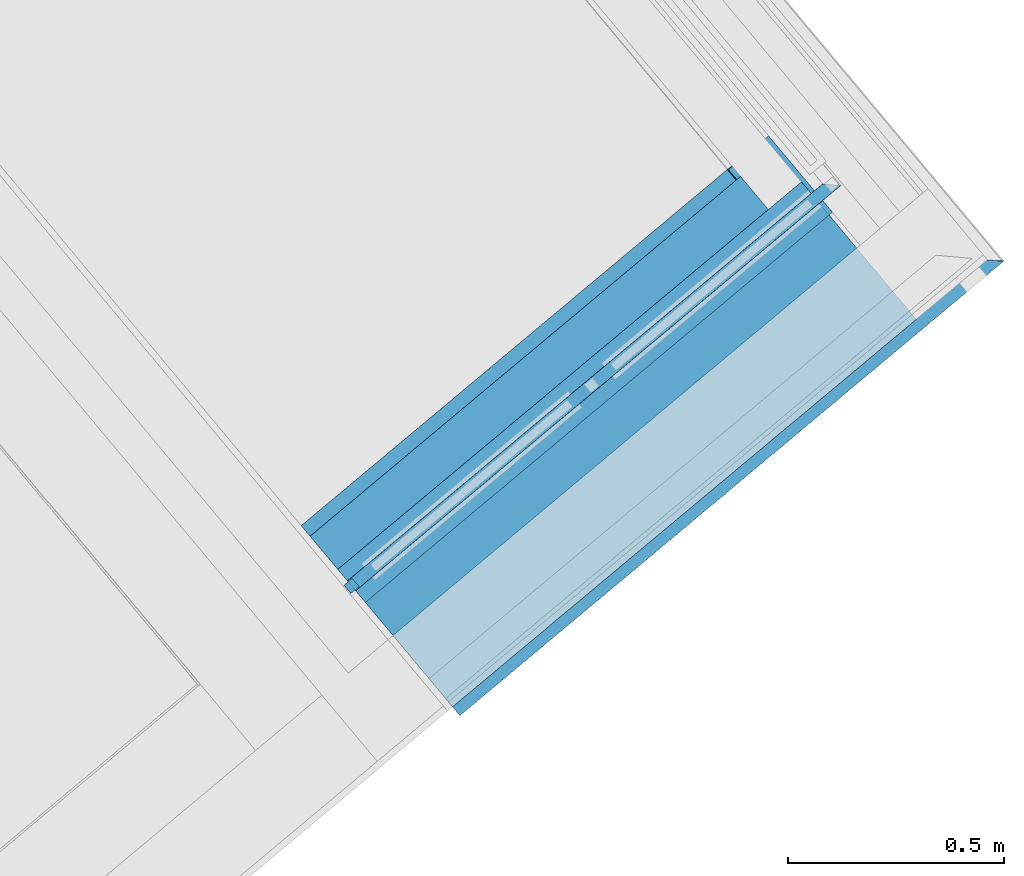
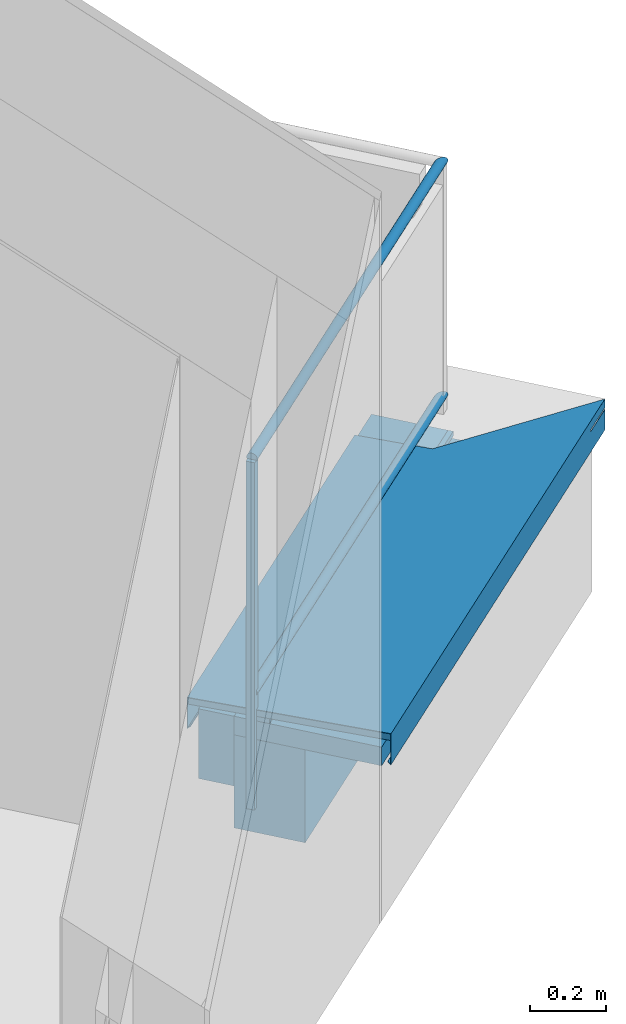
# One storey, part 30 of 53: 9 building element parts, 2 elements without a shape of their own.
"""IFC4 building model written with IfcOpenShell, lengths in metres."""

from ifc_helpers import new_model, entity, si_unit, converted_unit, derived_unit, direction, frame, origin_with_axes, place, context, subcontext, project, spatial, polygons, material, type_object, element, aggregate, save


model = new_model("IFC4")

# Units and contexts
model_context = context("Model", 3, precision=1e-05, world=origin_with_axes(), true_north=direction((0.0, 1.0)))
body_context = subcontext(model_context, "Body", "Model", "MODEL_VIEW")
ifc_project = project(units=[si_unit("LENGTHUNIT", "METRE"), si_unit("AREAUNIT", "SQUARE_METRE"), si_unit("VOLUMEUNIT", "CUBIC_METRE"), converted_unit("PLANEANGLEUNIT", "DEGREE", entity("IfcPlaneAngleMeasure", 0.0174532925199), si_unit("PLANEANGLEUNIT", "RADIAN"), dimensions=[0, 0, 0, 0, 0, 0, 0]), converted_unit("TIMEUNIT", "Year", entity("IfcTimeMeasure", 31556926.0), si_unit("TIMEUNIT", "SECOND"), dimensions=[0, 0, 1, 0, 0, 0, 0]), si_unit("MASSUNIT", "GRAM", prefix="KILO"), si_unit("THERMODYNAMICTEMPERATUREUNIT", "DEGREE_CELSIUS"), si_unit("LUMINOUSINTENSITYUNIT", "LUMEN"), si_unit("ENERGYUNIT", "JOULE", prefix="MEGA"), derived_unit("THERMALCONDUCTANCEUNIT", [(si_unit("POWERUNIT", "WATT"), 1), (si_unit("LENGTHUNIT", "METRE"), -1), (si_unit("THERMODYNAMICTEMPERATUREUNIT", "KELVIN"), -1)]), derived_unit("SPECIFICHEATCAPACITYUNIT", [(si_unit("ENERGYUNIT", "JOULE"), 1), (si_unit("MASSUNIT", "GRAM", prefix="KILO"), -1), (si_unit("THERMODYNAMICTEMPERATUREUNIT", "KELVIN"), -1)]), derived_unit("MASSDENSITYUNIT", [(si_unit("MASSUNIT", "GRAM", prefix="KILO"), 1), (si_unit("VOLUMEUNIT", "CUBIC_METRE"), -1)])], contexts=[model_context])

# Site, building, storey
site_placement = place(None, frame((-0.00153261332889, -0.00661245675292, 0.0), z_axis=(0.0, 0.0, 1.0), x_axis=(1.0, 0.0, 0.0)))
site = spatial("IfcSite", under=ifc_project, at=site_placement, Name="Gelände", CompositionType="ELEMENT")
building_placement = place(site_placement, origin_with_axes())
building = spatial("IfcBuilding", under=site, at=building_placement, Name="Gebäude", CompositionType="ELEMENT")
storey_placement = place(building_placement, frame((0.0, 0.0, 2.74), z_axis=(0.0, 0.0, 1.0), x_axis=(1.0, 0.0, 0.0)))
storey = spatial("IfcBuildingStorey", under=building, at=storey_placement, Name="OG1", CompositionType="ELEMENT", Elevation=2.74)

# Wall, building element parts
wall_type = type_object("IfcWallType", Name="Balkon Dämmung runter 574 x 610", PredefinedType="NOTDEFINED")
wall_placement = place(storey_placement, frame((14.3343917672, 21.3414540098, -0.2), z_axis=(0.0, 0.0, 1.0), x_axis=(-0.76736545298, -0.64120999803, 0.0)))
wall = element("IfcWall", 1, at=wall_placement, inside=storey, type_object=wall_type, Name="Wand-004", PredefinedType="NOTDEFINED")
ifc_material_1 = material(Name="Brettschichtholz")
building_element_part_1_placement = place(wall_placement, origin_with_axes())
building_element_part_1 = element("IfcBuildingElementPart", 2, at=building_element_part_1_placement, material=ifc_material_1, Name="Brettschichtholz", PredefinedType="NOTDEFINED", context=body_context, shape_type="Tessellation", body=[
    polygons([(1.40011965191, 0.214999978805, 0.500000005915), (1.40011965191, 0.214999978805, 0.560000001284), (1.40011965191, 0.190124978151, 0.560000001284), (1.40011965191, 0.130124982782, 0.560000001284), (1.40011965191, -0.100000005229, 0.560000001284), (1.40011965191, -0.160000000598, 0.560000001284), (1.40011965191, -0.200000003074, 0.560000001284), (1.40011965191, -0.199999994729, 0.500000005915), (1.07020205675e-06, 0.214999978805, 0.500000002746), (1.07020207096e-06, 0.214999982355, 0.506731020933), (1.07020207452e-06, 0.214999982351, 0.509050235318), (1.07020203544e-06, 0.214999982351, 0.509099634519), (1.07020207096e-06, 0.214999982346, 0.51136132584), (1.07020206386e-06, 0.214999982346, 0.511410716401), (1.07020207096e-06, 0.21499998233, 0.519224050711), (1.0702020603e-06, 0.21499998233, 0.519273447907), (1.07020207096e-06, 0.214999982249, 0.560000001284), (9.46374964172e-07, 0.190124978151, 0.560000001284), (6.47696584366e-07, 0.130124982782, 0.560000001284), (-4.97859470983e-07, -0.100000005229, 0.560000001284), (-7.96537847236e-07, -0.160000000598, 0.560000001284), (-9.95656794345e-07, -0.200000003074, 0.560000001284), (-9.95656751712e-07, -0.199999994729, 0.500000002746), (-9.95656773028e-07, -0.19999999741, 0.519273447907), (-9.95656765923e-07, -0.199999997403, 0.519224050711), (-9.95656765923e-07, -0.199999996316, 0.511410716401), (-9.95656758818e-07, -0.199999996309, 0.51136132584), (-9.95656787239e-07, -0.199999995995, 0.509099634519), (-9.95656758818e-07, -0.199999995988, 0.509050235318), (-9.95656758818e-07, -0.199999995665, 0.506731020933)], [[[1, 2, 3, 4, 5, 6, 7, 8]], [[2, 1, 9, 10, 11, 12, 13, 14, 15, 16, 17]], [[3, 2, 17, 18]], [[4, 3, 18, 19]], [[5, 4, 19, 20]], [[6, 5, 20, 21]], [[7, 6, 21, 22]], [[23, 8, 7, 22, 24, 25, 26, 27, 28, 29, 30]], [[1, 8, 23, 9]], [[9, 23, 30, 10]], [[11, 10, 30, 29]], [[12, 11, 29, 28]], [[13, 12, 28, 27]], [[14, 13, 27, 26]], [[15, 14, 26, 25]], [[25, 24, 16, 15]], [[21, 20, 19, 18, 17, 16, 24, 22]]], closed=True),
])
ifc_material_2 = material(Name="Stahlbeton")
building_element_part_2_placement = place(wall_placement, origin_with_axes())
building_element_part_2 = element("IfcBuildingElementPart", 3, at=building_element_part_2_placement, material=ifc_material_2, Name="Stahlbeton", PredefinedType="NOTDEFINED", context=body_context, shape_type="Tessellation", body=[
    polygons([(-1.05296038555e-09, 2.73518452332e-09, 0.498915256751), (-1.05295683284e-09, 2.73518452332e-09, 0.500000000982), (1.40011965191, 2.73518807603e-09, 0.499999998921), (1.40011965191, 2.73518807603e-09, 0.200000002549), (-1.05296038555e-09, 2.73518452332e-09, 0.2), (-1.05296038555e-09, 2.73518452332e-09, 0.334999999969), (-1.05296038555e-09, 2.73518452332e-09, 0.488695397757), (-1.05296038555e-09, 2.73518452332e-09, 0.491006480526), (-1.05296038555e-09, 2.73518452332e-09, 0.496604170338), (-1.05296038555e-09, 2.73518452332e-09, 0.498822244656), (-9.96647639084e-07, -0.199999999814, 0.500000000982), (-9.96647639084e-07, -0.199999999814, 0.498915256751), (1.40011965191, -0.199999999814, 0.500000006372), (1.40011965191, -0.199999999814, 0.334999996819), (1.40011965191, -0.199999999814, 0.200000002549), (-9.96647639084e-07, -0.199999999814, 0.2), (-9.96647639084e-07, -0.199999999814, 0.334999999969), (-9.96647639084e-07, -0.199999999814, 0.488695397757), (-9.96647639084e-07, -0.199999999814, 0.491006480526), (-9.96647639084e-07, -0.199999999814, 0.496604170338), (-9.96647639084e-07, -0.199999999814, 0.498822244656)], [[[1, 2, 3, 4, 5, 6, 7, 8, 9, 10]], [[11, 2, 1, 12]], [[2, 11, 13, 3]], [[4, 3, 13, 14, 15]], [[16, 5, 4, 15]], [[17, 6, 5, 16]], [[18, 7, 6, 17]], [[19, 8, 7, 18]], [[20, 9, 8, 19]], [[21, 10, 9, 20]], [[12, 1, 10, 21]], [[11, 12, 21, 20, 19, 18, 17, 14, 13]], [[17, 16, 15, 14]]], closed=True),
])
ifc_material_3 = material(Name="Vollholz")
building_element_part_3_placement = place(wall_placement, origin_with_axes())
building_element_part_3 = element("IfcBuildingElementPart", 4, at=building_element_part_3_placement, material=ifc_material_3, Name="Vollholz", PredefinedType="NOTDEFINED", context=body_context, shape_type="Tessellation", body=[
    polygons([(-0.0100567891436, -0.1, 0.575576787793), (-0.0100545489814, -0.1, 0.575979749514), (1.40011965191, -0.1, 0.575979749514), (1.40011965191, -0.1, 0.560000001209), (-0.0101434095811, -0.1, 0.560000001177), (-0.0100992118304, -0.1, 0.567947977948), (-0.0100662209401, -0.1, 0.573880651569), (-0.010056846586, -0.11153931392, 0.575576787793), (-0.0100665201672, -0.160110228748, 0.573880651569), (1.40011965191, -0.160110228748, 0.573880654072), (1.40011965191, -0.16, 0.560000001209), (-0.0101437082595, -0.16, 0.560000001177), (-0.010099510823, -0.160063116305, 0.567947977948)], [[[1, 2, 3, 4, 5, 6, 7]], [[8, 2, 1]], [[2, 8, 9, 10, 3]], [[10, 11, 4, 3]], [[12, 5, 4, 11]], [[13, 6, 5, 12]], [[9, 7, 6, 13]], [[8, 1, 7, 9]], [[9, 13, 12, 11, 10]]], closed=True),
])
ifc_material_4 = material(Name="EPS 1")
building_element_part_4_placement = place(wall_placement, origin_with_axes())
building_element_part_4 = element("IfcBuildingElementPart", 5, at=building_element_part_4_placement, material=ifc_material_4, Name="EPS 1", PredefinedType="NOTDEFINED", context=body_context, shape_type="Tessellation", body=[
    polygons([(0.0999985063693, -0.300000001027, 0.498915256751), (0.0999985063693, -0.300000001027, 0.499999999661), (0.0999990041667, -0.199999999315, 0.499999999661), (0.0999990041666, -0.199999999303, 0.498915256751), (1.40011965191, -0.3, 0.335), (1.40011965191, -0.3, 0.560000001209), (0.0999985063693, -0.300000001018, 0.560000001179), (0.0999985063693, -0.300000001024, 0.519273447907), (0.0999985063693, -0.300000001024, 0.519224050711), (0.0999985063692, -0.300000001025, 0.511410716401), (0.0999985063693, -0.300000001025, 0.51136132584), (0.0999985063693, -0.300000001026, 0.509099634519), (0.0999985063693, -0.300000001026, 0.509050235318), (0.0999985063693, -0.300000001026, 0.506731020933), (0.0999985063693, -0.300000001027, 0.498822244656), (0.0999985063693, -0.300000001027, 0.496604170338), (0.0999985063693, -0.300000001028, 0.491006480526), (0.0999985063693, -0.300000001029, 0.488695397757), (0.0999985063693, -0.3, 0.335), (0.0999990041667, -0.199999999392, 0.506731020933), (1.40011965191, -0.2, 0.560000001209), (1.40011965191, -0.199999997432, 0.335), (0.0999990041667, -0.199999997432, 0.335), (0.0999990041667, -0.199999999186, 0.488695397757), (0.0999990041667, -0.199999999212, 0.491006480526), (0.0999990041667, -0.199999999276, 0.496604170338), (0.0999990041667, -0.199999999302, 0.498822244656), (0.0999990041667, -0.199999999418, 0.509050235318), (0.0999990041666, -0.199999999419, 0.509099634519), (0.0999990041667, -0.199999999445, 0.51136132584), (0.0999990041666, -0.199999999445, 0.511410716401), (0.0999990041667, -0.199999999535, 0.519224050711), (0.0999990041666, -0.199999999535, 0.519273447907), (0.0999990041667, -0.2, 0.560000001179)], [[[1, 2, 3, 4]], [[5, 6, 7, 8, 9, 10, 11, 12, 13, 14, 2, 1, 15, 16, 17, 18, 19]], [[2, 14, 20, 3]], [[21, 22, 23, 24, 25, 26, 27, 4, 3, 20, 28, 29, 30, 31, 32, 33, 34]], [[15, 1, 4, 27]], [[5, 22, 21, 6]], [[6, 21, 34, 7]], [[34, 33, 8, 7]], [[33, 32, 9, 8]], [[32, 31, 10, 9]], [[31, 30, 11, 10]], [[30, 29, 12, 11]], [[29, 28, 13, 12]], [[14, 13, 28, 20]], [[16, 15, 27, 26]], [[17, 16, 26, 25]], [[18, 17, 25, 24]], [[19, 18, 24, 23]], [[22, 5, 19, 23]]], closed=True),
])
ifc_material_5 = material(Name="Holzwerkstoff")
building_element_part_5_placement = place(wall_placement, origin_with_axes())
building_element_part_5 = element("IfcBuildingElementPart", 6, at=building_element_part_5_placement, material=ifc_material_5, Name="Holzwerkstoff", PredefinedType="NOTDEFINED", context=body_context, shape_type="Tessellation", body=[
    polygons([(1.40011965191, -0.329999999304, 0.567947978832), (1.40011965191, -0.330698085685, 0.587937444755), (0.111969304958, -0.330698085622, 0.587937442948), (0.111905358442, -0.330634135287, 0.586106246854), (0.111832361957, -0.330561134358, 0.584015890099), (0.111759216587, -0.330487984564, 0.581921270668), (0.111685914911, -0.330414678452, 0.579822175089), (0.111551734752, -0.330280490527, 0.575979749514), (0.11153766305, -0.33026641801, 0.575576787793), (-0.0100579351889, -0.33026641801, 0.575576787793), (-0.0100673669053, -0.330207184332, 0.573880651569), (-0.0101003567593, -0.329999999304, 0.567947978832), (1.40011965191, 0.130124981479, 0.584015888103), (1.40011965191, 0.189984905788, 0.586106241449), (1.40011965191, 0.239999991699, 0.587852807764), (1.40011965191, 0.239276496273, 0.608570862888), (1.40011965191, -0.160110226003, 0.573880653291), (1.40011965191, -0.0999999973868, 0.575979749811), (-0.239275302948, 0.239276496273, 0.608570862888), (0.112246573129, -0.11222723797, 0.5958462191), (0.111972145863, 0.239997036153, 0.587937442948), (0.11196919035, 0.239999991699, 0.587852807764), (0.11190795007, 0.189985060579, 0.586106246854), (0.111834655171, 0.130124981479, 0.584015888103), (0.111761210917, 0.0701429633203, 0.581921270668), (0.111687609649, 0.0100327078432, 0.579822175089), (0.111552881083, -0.100000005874, 0.575979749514), (0.111538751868, -0.111539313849, 0.575576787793), (-0.0100568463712, -0.111539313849, 0.575576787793), (-0.0100665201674, -0.160110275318, 0.573880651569), (0.112248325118, 0.239720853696, 0.5958462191)], [[[1, 2, 3, 4, 5, 6, 7, 8, 9, 10, 11, 12]], [[13, 14, 15, 16, 2, 1, 17, 18]], [[2, 16, 19, 20, 3]], [[4, 3, 21, 22, 23]], [[5, 4, 23, 24]], [[6, 5, 24, 25]], [[26, 7, 6, 25]], [[27, 8, 7, 26]], [[27, 28, 9, 8]], [[9, 28, 29, 10]], [[11, 10, 29, 30]], [[30, 12, 11]], [[17, 1, 12, 30]], [[14, 13, 24, 23]], [[15, 14, 23, 22]], [[16, 15, 22, 21, 31, 19]], [[18, 17, 30, 29, 28, 27]], [[13, 18, 27, 26, 25, 24]], [[31, 20, 19]], [[3, 20, 31, 21]]], closed=True),
])
ifc_material_6 = material(Name="Stahl")
building_element_part_6_placement = place(wall_placement, origin_with_axes())
building_element_part_6 = element("IfcBuildingElementPart", 7, at=building_element_part_6_placement, material=ifc_material_6, Name="Stahl", PredefinedType="NOTDEFINED", context=body_context, shape_type="Tessellation", body=[
    polygons([(0.113599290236, -0.330698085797, 0.497561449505), (0.113599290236, -0.330698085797, 0.498822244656), (0.113599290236, -0.330698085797, 0.498915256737), (0.113599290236, -0.330698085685, 0.499999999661), (0.113599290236, -0.330698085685, 0.506731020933), (0.113599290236, -0.330698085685, 0.509050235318), (0.113599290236, -0.330698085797, 0.509099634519), (0.113599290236, -0.330698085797, 0.51136132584), (0.113599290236, -0.330698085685, 0.511410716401), (0.113599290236, -0.330698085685, 0.519224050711), (0.113599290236, -0.330698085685, 0.519273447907), (0.113599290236, -0.330698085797, 0.559999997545), (0.113599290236, -0.330698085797, 0.567947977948), (0.113599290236, -0.330698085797, 0.573880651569), (0.113599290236, -0.330698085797, 0.575576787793), (0.113599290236, -0.330698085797, 0.575979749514), (0.113599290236, -0.330698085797, 0.57982217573), (0.113599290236, -0.330698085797, 0.581921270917), (0.113599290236, -0.330698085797, 0.584015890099), (0.113599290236, -0.330698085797, 0.586106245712), (0.113599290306, -0.330698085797, 0.587937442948), (1.40011965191, -0.330698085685, 0.587937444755), (1.40011965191, -0.330698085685, 0.491006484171), (0.0999983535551, -0.330698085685, 0.491006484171), (0.0999983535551, -0.330698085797, 0.496604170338), (0.112642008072, -0.330698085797, 0.496604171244), (0.113599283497, -0.332051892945, 0.497561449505), (0.113599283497, -0.332051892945, 0.498822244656), (0.113599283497, -0.332051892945, 0.498915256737), (0.113599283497, -0.332051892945, 0.499999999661), (0.113599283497, -0.332051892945, 0.506731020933), (0.113599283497, -0.332051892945, 0.509050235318), (0.113599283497, -0.332051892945, 0.509099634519), (0.113599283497, -0.332051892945, 0.51136132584), (0.113599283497, -0.33205189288, 0.511410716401), (0.113599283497, -0.33205189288, 0.519224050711), (0.113599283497, -0.33205189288, 0.519273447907), (0.113599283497, -0.332051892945, 0.559999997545), (0.113599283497, -0.332051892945, 0.567947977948), (0.113599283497, -0.332051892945, 0.573880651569), (0.113599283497, -0.332051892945, 0.575576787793), (0.113599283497, -0.332051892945, 0.575979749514), (0.113599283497, -0.332051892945, 0.57982217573), (0.113599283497, -0.332051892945, 0.581921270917), (0.113599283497, -0.332051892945, 0.584015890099), (0.113599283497, -0.332051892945, 0.586106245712), (0.113599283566, -0.332051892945, 0.587937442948), (1.40011965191, 0.239276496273, 0.608570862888), (0.113600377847, -0.112227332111, 0.595846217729), (0.113600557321, -0.0761598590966, 0.597151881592), (-0.20170738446, 0.239276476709, 0.608570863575), (1.40011965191, -0.332051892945, 0.489652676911), (1.40011965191, -0.331094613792, 0.488695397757), (1.40011965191, -0.321878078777, 0.497911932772), (1.40011965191, -0.32288233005, 0.498822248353), (1.40011965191, 0.240152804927, 0.608602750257), (1.40011965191, 0.240146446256, 0.51136132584), (1.40011965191, 0.232283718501, 0.519224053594), (1.40011965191, 0.231373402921, 0.518219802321), (1.40011965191, 0.240542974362, 0.509050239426), (1.40011965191, 0.241500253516, 0.510007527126), (1.40011965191, 0.241500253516, 0.610006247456), (1.40011965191, -0.332051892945, 0.589243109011), (0.0999983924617, -0.32288233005, 0.498822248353), (0.0999983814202, -0.325100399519, 0.496604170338), (0.0999983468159, -0.332051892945, 0.491006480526), (0.0999983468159, -0.332051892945, 0.496604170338), (0.112642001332, -0.332051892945, 0.496604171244), (0.113599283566, -0.332051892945, 0.58924311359), (0.0999983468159, -0.332051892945, 0.489652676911), (0.113600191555, -0.149650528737, 0.595846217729), (0.113600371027, -0.113583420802, 0.597151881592), (-0.20170757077, 0.201849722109, 0.608570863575), (-0.202587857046, 0.240152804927, 0.608602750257), (0.0999983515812, -0.331094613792, 0.488695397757), (0.0999983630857, -0.328783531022, 0.491006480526), (0.0999983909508, -0.323185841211, 0.496604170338), (0.0999983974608, -0.321878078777, 0.497911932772), (-0.240092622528, 0.240152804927, 0.608602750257), (-0.241358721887, 0.240152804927, 0.608602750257), (-0.241358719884, 0.240152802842, 0.608570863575), (-0.241357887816, 0.24015197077, 0.595846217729), (-0.241357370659, 0.240151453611, 0.587937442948), (-0.241357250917, 0.240151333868, 0.586106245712), (-0.241357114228, 0.240151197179, 0.584015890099), (-0.241356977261, 0.24015106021, 0.581921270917), (-0.190006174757, 0.24015106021, 0.581921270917), (-0.130123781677, 0.24015106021, 0.581921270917), (-0.130123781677, 0.240150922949, 0.57982217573), (-0.130123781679, 0.240150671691, 0.575979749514), (-0.19003805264, 0.240150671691, 0.575979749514), (-0.241356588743, 0.240150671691, 0.575979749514), (-0.241356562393, 0.240150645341, 0.575576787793), (-0.241356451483, 0.24015053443, 0.573880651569), (-0.241356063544, 0.240150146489, 0.567947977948), (-0.241355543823, 0.240149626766, 0.559999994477), (-0.241352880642, 0.240146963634, 0.519273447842), (-0.241352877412, 0.240146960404, 0.519224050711), (-0.241352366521, 0.240146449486, 0.511410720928), (-0.242706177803, 0.240146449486, 0.511410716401), (-0.242706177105, 0.240146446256, 0.51136132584), (-0.23948720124, 0.240146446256, 0.51136132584), (-0.239437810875, 0.240097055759, 0.511410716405), (-0.232579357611, 0.233238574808, 0.518269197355), (-0.233444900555, 0.232283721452, 0.519224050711), (-0.232579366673, 0.231418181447, 0.518269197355), (-0.232628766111, 0.231373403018, 0.518219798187), (-0.239437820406, 0.238182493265, 0.511410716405), (-0.239487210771, 0.238231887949, 0.51136132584), (-0.241748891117, 0.240493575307, 0.509099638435), (-0.214998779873, 0.240493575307, 0.509099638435), (-0.214998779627, 0.240542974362, 0.509050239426), (-0.214998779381, 0.240592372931, 0.509099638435), (-0.241748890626, 0.240592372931, 0.509099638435), (-0.24084099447, 0.241500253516, 0.510007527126), (-0.239487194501, 0.241500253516, 0.51136132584), (-0.242706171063, 0.241500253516, 0.51136132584), (-0.242706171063, 0.241500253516, 0.511410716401), (-0.241352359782, 0.241500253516, 0.511410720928), (-0.241352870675, 0.241500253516, 0.519224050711), (-0.241352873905, 0.241500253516, 0.519273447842), (-0.2413555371, 0.241500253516, 0.559999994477), (-0.241356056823, 0.241500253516, 0.567947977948), (-0.241356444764, 0.241500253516, 0.573880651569), (-0.241356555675, 0.241500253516, 0.575576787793), (-0.241356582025, 0.241500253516, 0.575979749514), (-0.190038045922, 0.241500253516, 0.575979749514), (-0.13012377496, 0.241500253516, 0.575979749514), (-0.13012377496, 0.241500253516, 0.57982217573), (-0.13012377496, 0.241500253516, 0.581921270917), (-0.190006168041, 0.241500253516, 0.581921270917), (-0.241356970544, 0.241500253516, 0.581921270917), (-0.241357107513, 0.241500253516, 0.584015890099), (-0.241357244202, 0.241500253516, 0.586106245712), (-0.241357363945, 0.241500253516, 0.587937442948), (-0.241357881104, 0.241500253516, 0.595846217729), (-0.241358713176, 0.241500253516, 0.608570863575), (-0.24135871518, 0.241500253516, 0.608602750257), (-0.240092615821, 0.241500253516, 0.608602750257), (-0.202587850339, 0.241500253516, 0.608602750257), (-0.203951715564, 0.241500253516, 0.60865214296), (-0.241342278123, 0.241500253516, 0.610006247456), (-0.203951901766, 0.204095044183, 0.60865214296), (-0.202588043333, 0.20273064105, 0.608602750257)], [[[1, 2, 3, 4, 5, 6, 7, 8, 9, 10, 11, 12, 13, 14, 15, 16, 17, 18, 19, 20, 21, 22, 23, 24, 25, 26]], [[2, 1, 27, 28]], [[2, 28, 29, 3]], [[30, 4, 3, 29]], [[5, 4, 30, 31]], [[5, 31, 32, 6]], [[6, 32, 33, 7]], [[8, 7, 33, 34]], [[9, 8, 34, 35]], [[10, 9, 35, 36]], [[11, 10, 36, 37]], [[12, 11, 37, 38]], [[13, 12, 38, 39]], [[14, 13, 39, 40]], [[15, 14, 40, 41]], [[16, 15, 41, 42]], [[17, 16, 42, 43]], [[18, 17, 43, 44]], [[19, 18, 44, 45]], [[20, 19, 45, 46]], [[21, 20, 46, 47]], [[48, 22, 21, 49, 50, 51]], [[52, 53, 54, 55, 23, 22, 48, 56, 57, 58, 59, 60, 61, 62, 63]], [[23, 55, 64, 65, 24]], [[24, 66, 67, 25]], [[68, 26, 25, 67]], [[27, 1, 26, 68]], [[52, 63, 69, 47, 46, 45, 44, 43, 42, 41, 40, 39, 38, 37, 36, 35, 34, 33, 32, 31, 30, 29, 28, 27, 68, 67, 66, 70]], [[47, 69, 71, 49, 21]], [[49, 71, 72, 50]], [[72, 73, 51, 50]], [[56, 48, 51, 74]], [[53, 52, 70, 75]], [[54, 53, 75, 76, 77, 78]], [[55, 54, 78, 64]], [[57, 56, 74, 79, 80, 81, 82, 83, 84, 85, 86, 87, 88, 89, 90, 91, 92, 93, 94, 95, 96, 97, 98, 99, 100, 101, 102]], [[58, 57, 102, 103, 104, 105]], [[59, 58, 105, 106, 107]], [[60, 59, 107, 108, 109, 110, 111, 112]], [[61, 60, 112, 113, 114, 115]], [[62, 61, 115, 116, 117, 118, 119, 120, 121, 122, 123, 124, 125, 126, 127, 128, 129, 130, 131, 132, 133, 134, 135, 136, 137, 138, 139, 140, 141, 142]], [[63, 62, 142, 143, 144, 73, 72, 71, 69]], [[77, 65, 64, 78]], [[76, 24, 65, 77]], [[70, 66, 24, 76, 75]], [[144, 74, 51, 73]], [[74, 140, 139, 79]], [[79, 139, 138, 80]], [[81, 80, 138, 137]], [[82, 81, 137, 136]], [[83, 82, 136, 135]], [[84, 83, 135, 134]], [[85, 84, 134, 133]], [[86, 85, 133, 132]], [[131, 87, 86, 132]], [[130, 88, 87, 131]], [[129, 89, 88, 130]], [[128, 90, 89, 129]], [[90, 128, 127, 91]], [[91, 127, 126, 92]], [[93, 92, 126, 125]], [[94, 93, 125, 124]], [[95, 94, 124, 123]], [[96, 95, 123, 122]], [[97, 96, 122, 121]], [[98, 97, 121, 120]], [[99, 98, 120, 119]], [[119, 118, 100, 99]], [[118, 117, 101, 100]], [[116, 102, 101, 117]], [[103, 102, 109, 108]], [[104, 103, 108, 107, 106]], [[104, 106, 105]], [[102, 116, 115, 114, 110, 109]], [[113, 111, 110, 114]], [[112, 111, 113]], [[140, 74, 144, 143, 141]], [[141, 143, 142]]], closed=True),
])
aggregate(wall, [building_element_part_1, building_element_part_2, building_element_part_3, building_element_part_4, building_element_part_5, building_element_part_6])

# Space
space_placement = place(storey_placement, frame((9.48027034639, 24.9670510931, 0.22), z_axis=(0.0, 0.0, 1.0), x_axis=(0.641209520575, -0.76736585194, 0.0)))
space = spatial("IfcSpace", under=storey, at=space_placement, CompositionType="ELEMENT", PredefinedType="NOTDEFINED")

# Railing, building element parts
railing_type = type_object("IfcRailingType", Name="Geländerart", PredefinedType="NOTDEFINED")
railing_placement = place(space_placement, frame((5.69466912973, 0.0, 0.16), z_axis=(0.0, 0.0, 1.0), x_axis=(0.641209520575, 0.76736585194, 0.0)))
railing = element("IfcRailing", 8, at=railing_placement, inside=space, type_object=railing_type, Name="Geländer - 001", PredefinedType="NOTDEFINED")
ifc_material_7 = material(Name="Aluminium")
building_element_part_7_placement = place(railing_placement, origin_with_axes())
building_element_part_7 = element("IfcBuildingElementPart", 9, at=building_element_part_7_placement, material=ifc_material_7, Name="Aluminium", PredefinedType="NOTDEFINED", context=body_context, shape_type="Tessellation", body=[
    polygons([(0.04966769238, -0.0399452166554, -0.3), (0.0336374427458, -0.0207610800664, -0.3), (0.0336374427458, -0.0207610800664, 0.82), (0.04966769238, -0.0399452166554, 0.82), (0.030483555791, -0.0559754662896, -0.3), (0.0144533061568, -0.0367913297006, -0.3), (0.0144533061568, -0.0367913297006, 0.82), (0.030483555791, -0.0559754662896, 0.82)], [[[1, 2, 3, 4]], [[1, 5, 6, 2]], [[2, 6, 7, 3]], [[4, 3, 7, 8]], [[5, 1, 4, 8]], [[6, 5, 8, 7]]], closed=True),
])
building_element_part_8_placement = place(railing_placement, origin_with_axes())
building_element_part_8 = element("IfcBuildingElementPart", 10, at=building_element_part_8_placement, material=ifc_material_7, Name="Aluminium", PredefinedType="NOTDEFINED", context=body_context, shape_type="Tessellation", body=[
    polygons([(0.0224423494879, -0.0268577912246, 0.825), (0.0225884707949, -0.0270326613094, 0.827604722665), (1.12402507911, 0.893326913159, 0.827604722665), (1.12370408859, 0.893355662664, 0.825), (0.0225884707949, -0.0270326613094, 0.822395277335), (0.023022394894, -0.0275519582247, 0.81986969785), (0.0237309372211, -0.0283999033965, 0.8175), (0.0246925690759, -0.02955073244, 0.815358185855), (0.0258780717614, -0.0309694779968, 0.813509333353), (0.0272514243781, -0.0326130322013, 0.812009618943), (0.0287708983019, -0.0344314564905, 0.810904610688), (0.0303903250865, -0.0363694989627, 0.810227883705), (0.0320604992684, -0.038368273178, 0.81), (0.0337306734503, -0.0403670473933, 0.810227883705), (0.0353501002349, -0.0423050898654, 0.810904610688), (0.0368695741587, -0.0441235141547, 0.812009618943), (0.0382429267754, -0.0457670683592, 0.813509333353), (0.0394284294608, -0.047185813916, 0.815358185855), (0.0403900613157, -0.0483366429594, 0.8175), (0.0410986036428, -0.0491845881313, 0.81986969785), (0.0415325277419, -0.0497038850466, 0.822395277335), (0.0416786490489, -0.0498787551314, 0.825), (0.0415325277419, -0.0497038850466, 0.827604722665), (0.0410986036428, -0.0491845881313, 0.83013030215), (0.0403900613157, -0.0483366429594, 0.8325), (0.0394284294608, -0.047185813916, 0.834641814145), (0.0382429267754, -0.0457670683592, 0.836490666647), (0.0368695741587, -0.0441235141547, 0.837990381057), (0.0353501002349, -0.0423050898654, 0.839095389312), (0.0337306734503, -0.0403670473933, 0.839772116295), (0.0320604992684, -0.038368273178, 0.84), (0.0303903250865, -0.0363694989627, 0.839772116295), (0.0287708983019, -0.0344314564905, 0.839095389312), (0.0272514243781, -0.0326130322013, 0.837990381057), (0.0258780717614, -0.0309694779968, 0.836490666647), (0.0246925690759, -0.02955073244, 0.834641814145), (0.0237309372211, -0.0283999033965, 0.8325), (0.023022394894, -0.0275519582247, 0.83013030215), (1.12497829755, 0.893241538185, 0.83013030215), (1.12653478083, 0.893102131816, 0.8325), (1.128647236, 0.892912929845, 0.834641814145), (1.13125147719, 0.892679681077, 0.836490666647), (1.13426837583, 0.892409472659, 0.837990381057), (1.137606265, 0.892110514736, 0.839095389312), (1.14116372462, 0.891791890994, 0.839772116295), (1.14483266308, 0.891463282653, 0.84), (1.14850160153, 0.891134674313, 0.839772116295), (1.15205906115, 0.890816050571, 0.839095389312), (1.15539695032, 0.890517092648, 0.837990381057), (1.15841384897, 0.89024688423, 0.836490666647), (1.16101809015, 0.890013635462, 0.834641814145), (1.16313054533, 0.889824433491, 0.8325), (1.16468702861, 0.889685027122, 0.83013030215), (1.16564024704, 0.889599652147, 0.827604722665), (1.16596123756, 0.889570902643, 0.825), (1.16564024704, 0.889599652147, 0.822395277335), (1.16468702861, 0.889685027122, 0.81986969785), (1.16313054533, 0.889824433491, 0.8175), (1.16101809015, 0.890013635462, 0.815358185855), (1.15841384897, 0.89024688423, 0.813509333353), (1.15539695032, 0.890517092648, 0.812009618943), (1.15205906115, 0.890816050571, 0.810904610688), (1.14850160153, 0.891134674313, 0.810227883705), (1.14483266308, 0.891463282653, 0.81), (1.14116372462, 0.891791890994, 0.810227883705), (1.137606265, 0.892110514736, 0.810904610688), (1.13426837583, 0.892409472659, 0.812009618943), (1.13125147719, 0.892679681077, 0.813509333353), (1.128647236, 0.892912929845, 0.815358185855), (1.12653478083, 0.893102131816, 0.8175), (1.12497829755, 0.893241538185, 0.81986969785), (1.12402507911, 0.893326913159, 0.822395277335)], [[[1, 2, 3, 4]], [[1, 5, 6, 7, 8, 9, 10, 11, 12, 13, 14, 15, 16, 17, 18, 19, 20, 21, 22, 23, 24, 25, 26, 27, 28, 29, 30, 31, 32, 33, 34, 35, 36, 37, 38, 2]], [[2, 38, 39, 3]], [[4, 3, 39, 40, 41, 42, 43, 44, 45, 46, 47, 48, 49, 50, 51, 52, 53, 54, 55, 56, 57, 58, 59, 60, 61, 62, 63, 64, 65, 66, 67, 68, 69, 70, 71, 72]], [[5, 1, 4, 72]], [[6, 5, 72, 71]], [[7, 6, 71, 70]], [[8, 7, 70, 69]], [[9, 8, 69, 68]], [[10, 9, 68, 67]], [[11, 10, 67, 66]], [[12, 11, 66, 65]], [[13, 12, 65, 64]], [[14, 13, 64, 63]], [[15, 14, 63, 62]], [[16, 15, 62, 61]], [[17, 16, 61, 60]], [[18, 17, 60, 59]], [[19, 18, 59, 58]], [[20, 19, 58, 57]], [[21, 20, 57, 56]], [[22, 21, 56, 55]], [[23, 22, 55, 54]], [[24, 23, 54, 53]], [[25, 24, 53, 52]], [[26, 25, 52, 51]], [[27, 26, 51, 50]], [[28, 27, 50, 49]], [[29, 28, 49, 48]], [[30, 29, 48, 47]], [[31, 30, 47, 46]], [[32, 31, 46, 45]], [[33, 32, 45, 44]], [[34, 33, 44, 43]], [[35, 34, 43, 42]], [[36, 35, 42, 41]], [[37, 36, 41, 40]], [[38, 37, 40, 39]]], closed=True),
])
building_element_part_9_placement = place(railing_placement, origin_with_axes())
building_element_part_9 = element("IfcBuildingElementPart", 11, at=building_element_part_9_placement, material=ifc_material_7, Name="Aluminium", PredefinedType="NOTDEFINED", context=body_context, shape_type="Tessellation", body=[
    polygons([(0.0224423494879, -0.0268577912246, 0.07), (0.0225884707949, -0.0270326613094, 0.072604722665), (1.12402507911, 0.893326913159, 0.072604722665), (1.12370408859, 0.893355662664, 0.07), (0.0225884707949, -0.0270326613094, 0.067395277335), (0.023022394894, -0.0275519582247, 0.0648696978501), (0.0237309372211, -0.0283999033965, 0.0625), (0.0246925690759, -0.02955073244, 0.0603581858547), (0.0258780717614, -0.0309694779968, 0.0585093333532), (0.0272514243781, -0.0326130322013, 0.0570096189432), (0.0287708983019, -0.0344314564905, 0.0559046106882), (0.0303903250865, -0.0363694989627, 0.0552278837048), (0.0320604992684, -0.038368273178, 0.055), (0.0337306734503, -0.0403670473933, 0.0552278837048), (0.0353501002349, -0.0423050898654, 0.0559046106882), (0.0368695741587, -0.0441235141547, 0.0570096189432), (0.0382429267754, -0.0457670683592, 0.0585093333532), (0.0394284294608, -0.047185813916, 0.0603581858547), (0.0403900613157, -0.0483366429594, 0.0625), (0.0410986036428, -0.0491845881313, 0.0648696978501), (0.0415325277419, -0.0497038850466, 0.067395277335), (0.0416786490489, -0.0498787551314, 0.07), (0.0415325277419, -0.0497038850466, 0.072604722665), (0.0410986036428, -0.0491845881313, 0.0751303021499), (0.0403900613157, -0.0483366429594, 0.0775), (0.0394284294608, -0.047185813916, 0.0796418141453), (0.0382429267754, -0.0457670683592, 0.0814906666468), (0.0368695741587, -0.0441235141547, 0.0829903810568), (0.0353501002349, -0.0423050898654, 0.0840953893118), (0.0337306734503, -0.0403670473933, 0.0847721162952), (0.0320604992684, -0.038368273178, 0.085), (0.0303903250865, -0.0363694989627, 0.0847721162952), (0.0287708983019, -0.0344314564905, 0.0840953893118), (0.0272514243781, -0.0326130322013, 0.0829903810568), (0.0258780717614, -0.0309694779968, 0.0814906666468), (0.0246925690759, -0.02955073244, 0.0796418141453), (0.0237309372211, -0.0283999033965, 0.0775), (0.023022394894, -0.0275519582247, 0.0751303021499), (1.12497829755, 0.893241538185, 0.0751303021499), (1.12653478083, 0.893102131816, 0.0775), (1.128647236, 0.892912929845, 0.0796418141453), (1.13125147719, 0.892679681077, 0.0814906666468), (1.13426837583, 0.892409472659, 0.0829903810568), (1.137606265, 0.892110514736, 0.0840953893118), (1.14116372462, 0.891791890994, 0.0847721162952), (1.14483266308, 0.891463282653, 0.085), (1.14850160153, 0.891134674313, 0.0847721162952), (1.15205906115, 0.890816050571, 0.0840953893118), (1.15539695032, 0.890517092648, 0.0829903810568), (1.15841384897, 0.89024688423, 0.0814906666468), (1.16101809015, 0.890013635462, 0.0796418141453), (1.16313054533, 0.889824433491, 0.0775), (1.16468702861, 0.889685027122, 0.0751303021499), (1.16564024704, 0.889599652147, 0.072604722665), (1.16596123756, 0.889570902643, 0.07), (1.16564024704, 0.889599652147, 0.067395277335), (1.16468702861, 0.889685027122, 0.0648696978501), (1.16313054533, 0.889824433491, 0.0625), (1.16101809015, 0.890013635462, 0.0603581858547), (1.15841384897, 0.89024688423, 0.0585093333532), (1.15539695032, 0.890517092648, 0.0570096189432), (1.15205906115, 0.890816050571, 0.0559046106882), (1.14850160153, 0.891134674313, 0.0552278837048), (1.14483266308, 0.891463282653, 0.055), (1.14116372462, 0.891791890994, 0.0552278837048), (1.137606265, 0.892110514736, 0.0559046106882), (1.13426837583, 0.892409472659, 0.0570096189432), (1.13125147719, 0.892679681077, 0.0585093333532), (1.128647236, 0.892912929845, 0.0603581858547), (1.12653478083, 0.893102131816, 0.0625), (1.12497829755, 0.893241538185, 0.0648696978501), (1.12402507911, 0.893326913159, 0.067395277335)], [[[1, 2, 3, 4]], [[1, 5, 6, 7, 8, 9, 10, 11, 12, 13, 14, 15, 16, 17, 18, 19, 20, 21, 22, 23, 24, 25, 26, 27, 28, 29, 30, 31, 32, 33, 34, 35, 36, 37, 38, 2]], [[2, 38, 39, 3]], [[4, 3, 39, 40, 41, 42, 43, 44, 45, 46, 47, 48, 49, 50, 51, 52, 53, 54, 55, 56, 57, 58, 59, 60, 61, 62, 63, 64, 65, 66, 67, 68, 69, 70, 71, 72]], [[5, 1, 4, 72]], [[6, 5, 72, 71]], [[7, 6, 71, 70]], [[8, 7, 70, 69]], [[9, 8, 69, 68]], [[10, 9, 68, 67]], [[11, 10, 67, 66]], [[12, 11, 66, 65]], [[13, 12, 65, 64]], [[14, 13, 64, 63]], [[15, 14, 63, 62]], [[16, 15, 62, 61]], [[17, 16, 61, 60]], [[18, 17, 60, 59]], [[19, 18, 59, 58]], [[20, 19, 58, 57]], [[21, 20, 57, 56]], [[22, 21, 56, 55]], [[23, 22, 55, 54]], [[24, 23, 54, 53]], [[25, 24, 53, 52]], [[26, 25, 52, 51]], [[27, 26, 51, 50]], [[28, 27, 50, 49]], [[29, 28, 49, 48]], [[30, 29, 48, 47]], [[31, 30, 47, 46]], [[32, 31, 46, 45]], [[33, 32, 45, 44]], [[34, 33, 44, 43]], [[35, 34, 43, 42]], [[36, 35, 42, 41]], [[37, 36, 41, 40]], [[38, 37, 40, 39]]], closed=True),
])
aggregate(railing, [building_element_part_7, building_element_part_8, building_element_part_9])

save(model, "model.ifc")
